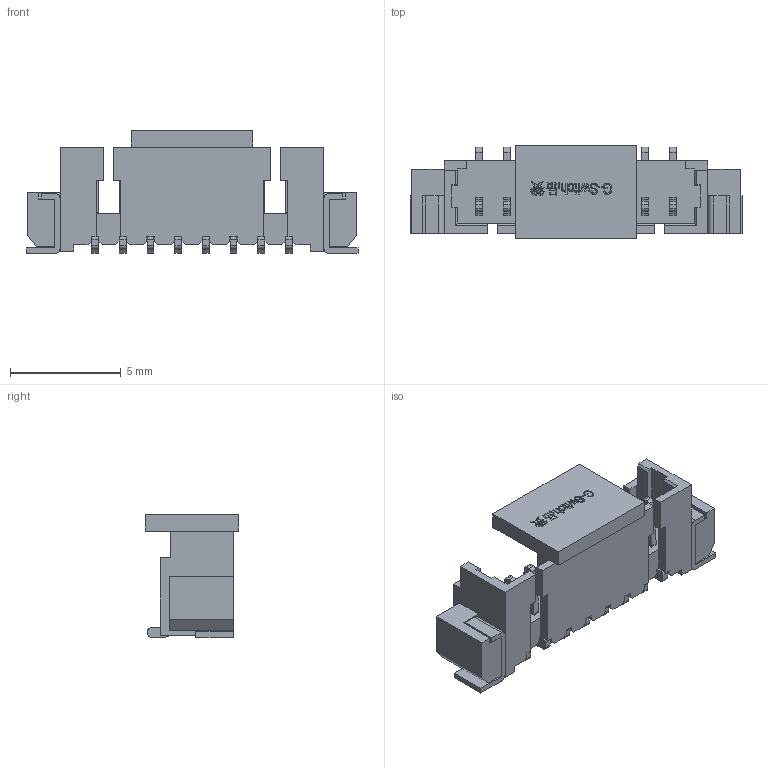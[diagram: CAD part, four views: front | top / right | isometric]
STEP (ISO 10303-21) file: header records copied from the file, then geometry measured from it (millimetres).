
FILE_DESCRIPTION (( 'STEP AP203' ), '1' );
FILE_NAME ('GT-A1251WVS-108SBT01.STEP', '2024-09-25T09:33:25', ( '' ), ( '' ), 'SwSTEP 2.0', 'SolidWorks 2020', '' );
FILE_SCHEMA (( 'CONFIG_CONTROL_DESIGN' ));
Length unit declared in the file: millimetre
Products named in the file (7): GT-A1251WVS-108SBT01; 66.stp; GT-A1251WVS-108SBT01.stp; 5254.stp; PRT0001542.stp; PRT0001546.stp; PRT0003.stp
Assembly tree (25 placements, depth 3):
  GT-A1251WVS-108SBT01
    GT-A1251WVS-108SBT01.stp
      5254.stp
      PRT0001546.stp  x20
      66.stp
      PRT0003.stp
      PRT0001542.stp
Bounding box: 14.99 x 4.2 x 5.55 mm (x, y, z)
Volume: 147.2 mm3; surface area: 700.4 mm2
Topology: 24 solids, 24 shells, 1064 faces, 2957 edges, 1968 vertices
Faces by surface type: plane 760, cylinder 225, bspline 71, sphere 8
Entity records: 20931 total; most frequent: CARTESIAN_POINT 6909, ORIENTED_EDGE 2836, DIRECTION 2262, EDGE_CURVE 1418, LINE 1232, VECTOR 1232, VERTEX_POINT 942, EDGE_LOOP 556
